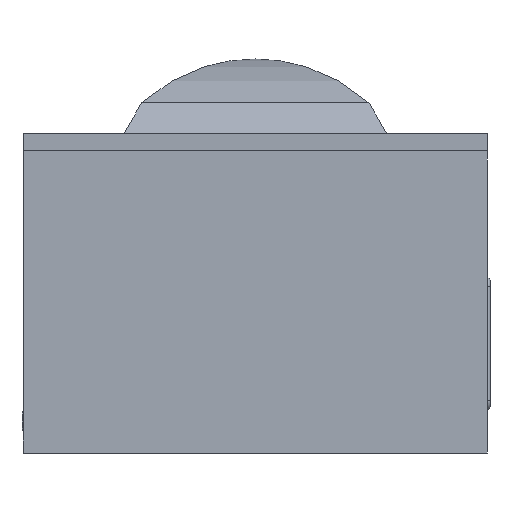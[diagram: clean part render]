
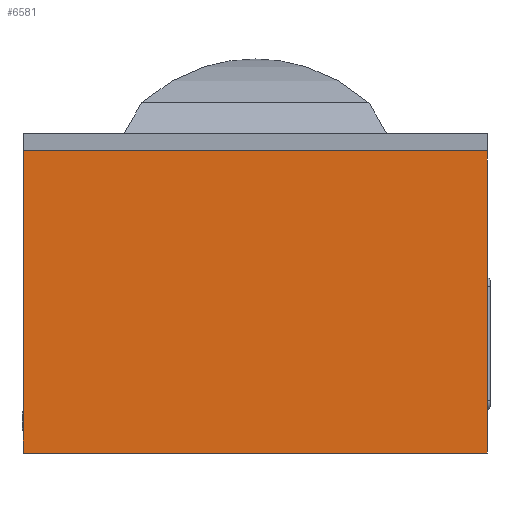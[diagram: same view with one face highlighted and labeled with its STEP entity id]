
A CAD part, left-side view. The second image highlights one B-rep face of the part: STEP entity #6581.
In plain terms, the highlighted planar face has unit normal (-1, 0, 0).
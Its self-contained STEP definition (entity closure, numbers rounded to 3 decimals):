
#488=ORIENTED_EDGE('',*,*,#1916,.F.);
#489=ORIENTED_EDGE('',*,*,#1917,.T.);
#490=ORIENTED_EDGE('',*,*,#1918,.T.);
#491=ORIENTED_EDGE('',*,*,#1919,.T.);
#492=ORIENTED_EDGE('',*,*,#1920,.F.);
#493=ORIENTED_EDGE('',*,*,#1921,.F.);
#494=ORIENTED_EDGE('',*,*,#1794,.F.);
#495=ORIENTED_EDGE('',*,*,#1922,.T.);
#1794=EDGE_CURVE('',#2508,#2509,#2974,.T.);
#1916=EDGE_CURVE('',#2630,#2631,#3061,.T.);
#1917=EDGE_CURVE('',#2630,#2632,#3062,.T.);
#1918=EDGE_CURVE('',#2632,#2633,#3063,.T.);
#1919=EDGE_CURVE('',#2633,#2634,#3064,.T.);
#1920=EDGE_CURVE('',#2635,#2634,#3065,.T.);
#1921=EDGE_CURVE('',#2509,#2635,#3066,.T.);
#1922=EDGE_CURVE('',#2508,#2631,#3067,.T.);
#2508=VERTEX_POINT('',#8337);
#2509=VERTEX_POINT('',#8339);
#2630=VERTEX_POINT('',#9215);
#2631=VERTEX_POINT('',#9216);
#2632=VERTEX_POINT('',#9218);
#2633=VERTEX_POINT('',#9220);
#2634=VERTEX_POINT('',#9222);
#2635=VERTEX_POINT('',#9224);
#2974=LINE('',#8338,#3462);
#3061=LINE('',#9214,#3549);
#3062=LINE('',#9217,#3550);
#3063=LINE('',#9219,#3551);
#3064=LINE('',#9221,#3552);
#3065=LINE('',#9223,#3553);
#3066=LINE('',#9225,#3554);
#3067=LINE('',#9226,#3555);
#3462=VECTOR('',#7216,1000.);
#3549=VECTOR('',#7305,1000.);
#3550=VECTOR('',#7306,1000.);
#3551=VECTOR('',#7307,1000.);
#3552=VECTOR('',#7308,1000.);
#3553=VECTOR('',#7309,1000.);
#3554=VECTOR('',#7310,1000.);
#3555=VECTOR('',#7311,1000.);
#3933=EDGE_LOOP('',(#488,#489,#490,#491,#492,#493,#494,#495));
#4247=FACE_BOUND('',#3933,.T.);
#4538=PLANE('',#6872);
#6581=ADVANCED_FACE('',(#4247),#4538,.T.);
#6872=AXIS2_PLACEMENT_3D('',#9213,#7303,#7304);
#7216=DIRECTION('',(0.,0.,-1.));
#7303=DIRECTION('',(-1.,0.,0.));
#7304=DIRECTION('',(0.,0.,1.));
#7305=DIRECTION('',(0.,0.,-1.));
#7306=DIRECTION('',(0.,1.,0.));
#7307=DIRECTION('',(0.,0.,-1.));
#7308=DIRECTION('',(0.,-1.,0.));
#7309=DIRECTION('',(0.,0.,-1.));
#7310=DIRECTION('',(0.,1.,0.));
#7311=DIRECTION('',(0.,1.,0.));
#8337=CARTESIAN_POINT('',(0.,-0.01,200.));
#8338=CARTESIAN_POINT('',(0.,-0.01,200.));
#8339=CARTESIAN_POINT('',(0.,-0.01,50.));
#9213=CARTESIAN_POINT('',(0.,530.,365.));
#9214=CARTESIAN_POINT('',(0.,0.,365.));
#9215=CARTESIAN_POINT('',(0.,0.,344.999));
#9216=CARTESIAN_POINT('',(0.,0.,200.));
#9217=CARTESIAN_POINT('',(0.,0.,344.999));
#9218=CARTESIAN_POINT('',(0.,530.,344.999));
#9219=CARTESIAN_POINT('',(0.,530.,365.));
#9220=CARTESIAN_POINT('',(0.,530.,0.));
#9221=CARTESIAN_POINT('',(0.,530.,0.));
#9222=CARTESIAN_POINT('',(0.,0.,0.));
#9223=CARTESIAN_POINT('',(0.,0.,365.));
#9224=CARTESIAN_POINT('',(0.,0.,50.));
#9225=CARTESIAN_POINT('',(0.,-0.01,50.));
#9226=CARTESIAN_POINT('',(0.,-0.01,200.));
